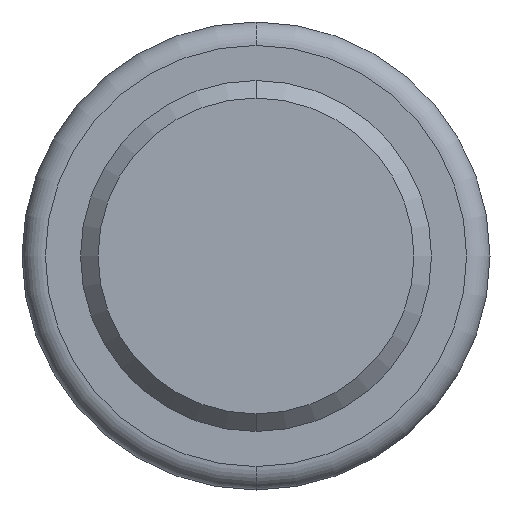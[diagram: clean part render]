
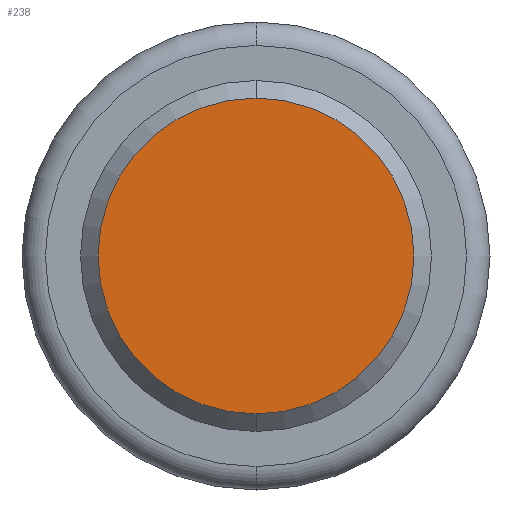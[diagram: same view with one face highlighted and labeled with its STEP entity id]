
A CAD part, front view. The second image highlights one B-rep face of the part: STEP entity #238.
In plain terms, the highlighted planar face has unit normal (0, -1, 0).
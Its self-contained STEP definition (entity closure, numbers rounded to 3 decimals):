
#5=CARTESIAN_POINT('',(0.,0.,0.));
#6=DIRECTION('',(0.,-1.,0.));
#7=DIRECTION('',(0.,0.,-1.));
#8=AXIS2_PLACEMENT_3D('',#5,#6,#7);
#14=CARTESIAN_POINT('',(0.,0.,0.));
#15=DIRECTION('',(0.,1.,0.));
#16=DIRECTION('',(0.,0.,-1.));
#17=AXIS2_PLACEMENT_3D('',#14,#15,#16);
#181=CARTESIAN_POINT('',(0.,0.,-0.675));
#183=VERTEX_POINT('',#181);
#205=CARTESIAN_POINT('',(0.,0.,0.675));
#207=VERTEX_POINT('',#205);
#227=CARTESIAN_POINT('',(0.,0.,0.));
#228=DIRECTION('',(0.,1.,0.));
#229=DIRECTION('',(0.,0.,-1.));
#230=AXIS2_PLACEMENT_3D('',#227,#228,#229);
#231=PLANE('',#230);
#233=ORIENTED_EDGE('',*,*,#232,.F.);
#235=ORIENTED_EDGE('',*,*,#234,.T.);
#236=EDGE_LOOP('',(#233,#235));
#237=FACE_OUTER_BOUND('',#236,.F.);
#238=ADVANCED_FACE('',(#237),#231,.F.);
#9=CIRCLE('',#8,0.675);
#18=CIRCLE('',#17,0.675);
#232=EDGE_CURVE('',#183,#207,#9,.T.);
#234=EDGE_CURVE('',#183,#207,#18,.T.);
